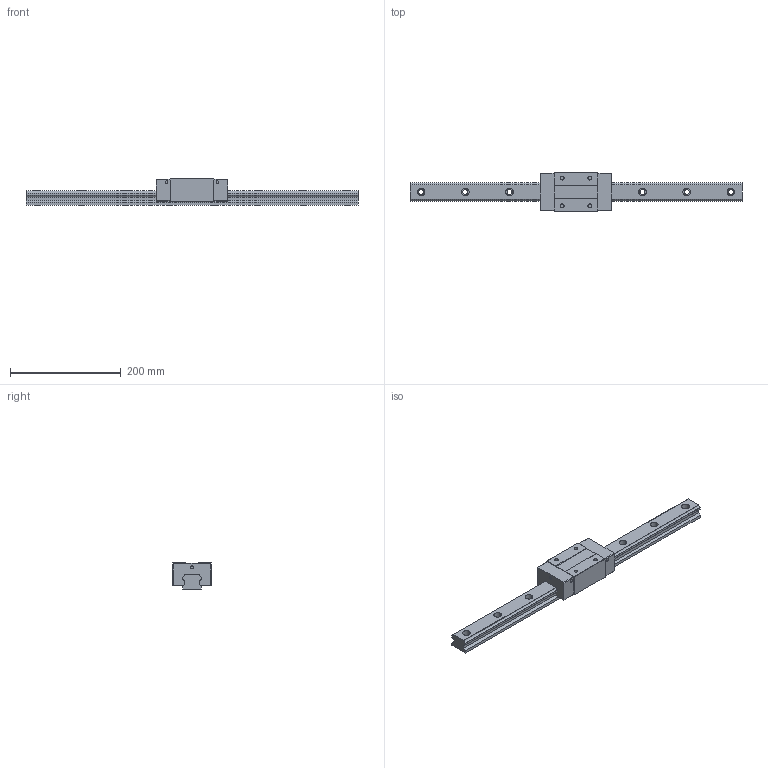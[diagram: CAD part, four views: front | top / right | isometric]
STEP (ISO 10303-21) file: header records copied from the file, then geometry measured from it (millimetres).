
FILE_DESCRIPTION (( 'STEP AP203' ), '1' );
FILE_NAME ('TRS35VN-WZ.STEP', '2024-06-12T07:25:13', ( '' ), ( '' ), 'SwSTEP 2.0', 'SolidWorks 2022', '' );
FILE_SCHEMA (( 'CONFIG_CONTROL_DESIGN' ));
Length unit declared in the file: millimetre
Products named in the file (1): TRS35VN-WZ
Bounding box: 600 x 70 x 48 mm (x, y, z)
Volume: 733868.2 mm3; surface area: 122124.8 mm2
Topology: 2 solids, 2 shells, 178 faces, 464 edges, 308 vertices
Faces by surface type: plane 90, cylinder 88
Entity records: 5619 total; most frequent: DIRECTION 998, CARTESIAN_POINT 951, ORIENTED_EDGE 928, EDGE_CURVE 464, AXIS2_PLACEMENT_3D 355, VERTEX_POINT 308, LINE 288, VECTOR 288
